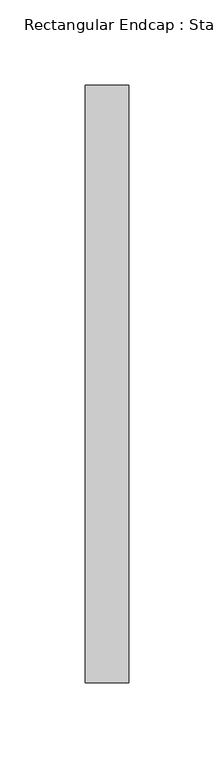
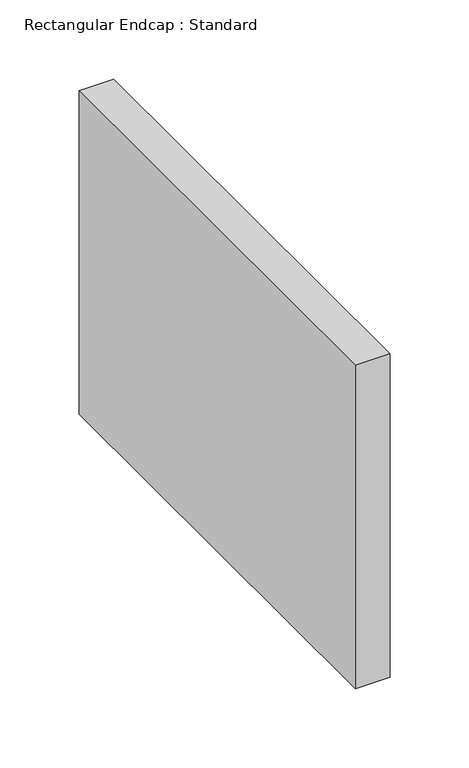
"""IFC4 building model written with IfcOpenShell, lengths in millimetres: duct fitting geometry, Rectangular Endcap : Standard."""

from ifc_helpers import new_model, si_unit, frame, origin, place, context, project, spatial, polyline, outline, extrude, source, transform, mapped, element, save


def rectangular_endcap_standard_a014d959(model_context):
    return source(origin(), model_context, "Body", "SweptSolid", [
        extrude(outline(polyline([(0.0, -175.0), (0.0, 175.0), (25.4, 175.0), (25.4, -175.0), (0.0, -175.0)])), frame((0.0, 0.0, -125.0), z_axis=(0.0, 0.0, 1.0), x_axis=(1.0, 0.0, 0.0)), (0.0, 0.0, 1.0), 250.0),
    ])


if __name__ == "__main__":
    model = new_model("IFC4")
    model_context = context("Model", 3, world=origin())
    ifc_project = project(units=[si_unit("LENGTHUNIT", "METRE", prefix="MILLI")], contexts=[model_context])
    site = spatial("IfcSite", under=ifc_project)
    building = spatial("IfcBuilding", under=site)
    placement = place(None, origin())
    rectangular_endcap_standard_shape = rectangular_endcap_standard_a014d959(model_context)
    element("IfcDuctFitting", 1, ObjectType="Rectangular Endcap : Standard", at=placement, inside=building, context=model_context, shape_type="MappedRepresentation", body=[
        mapped(rectangular_endcap_standard_shape, transform((0.0, 0.0, 0.0), x_axis=(1.0, 0.0, 0.0), y_axis=(0.0, 1.0, 0.0), z_axis=(0.0, 0.0, 1.0))),
    ])
    save(model, "model.ifc")
